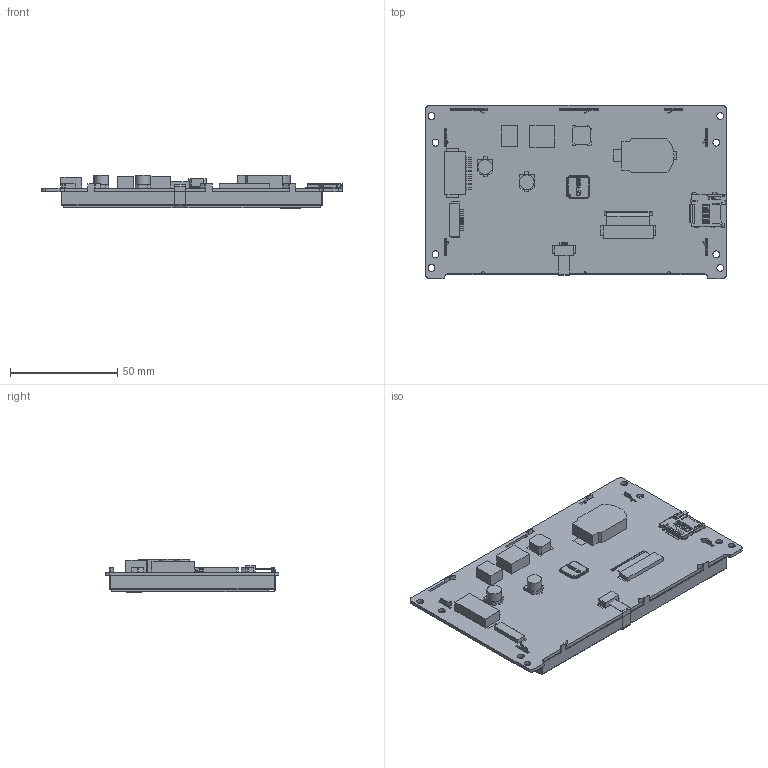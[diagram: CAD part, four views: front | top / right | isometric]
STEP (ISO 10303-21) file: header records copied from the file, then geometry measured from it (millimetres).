
FILE_DESCRIPTION(/* description */ (''),/* implementation_level */ '2;1');
FILE_NAME(/* name */ '',/* time_stamp */ '2021-08-24T10:30:31+08:00',/* author */ (''),/* organization */ (''),/* preprocessor_version */ 'ST-DEVELOPER v11',/* originating_system */ 'SIEMENS PLM Software NX 7.5',/* authorisation */ '');
FILE_SCHEMA (('AP203_CONFIGURATION_CONTROLLED_3D_DESIGN_OF_MECHANICAL_PARTS_AND_ASSEMBLIES_MIM_LF'));
Products named in the file (1): SDWb050T84T
Bounding box: 140 x 80.9 x 15.61 mm (x, y, z)
Volume: 33762 mm3; surface area: 58261.1 mm2
Topology: 22 solids, 22 shells, 2468 faces, 7171 edges, 4819 vertices
Faces by surface type: plane 2025, cylinder 435, bspline 7, cone 1
Full cylindrical faces by diameter (mm): 3.2 x8, 6.776 x2
Entity records: 83303 total; most frequent: CARTESIAN_POINT 14834, ORIENTED_EDGE 14126, DIRECTION 12896, EDGE_CURVE 7063, LINE 6214, VECTOR 6214, VERTEX_POINT 4638, AXIS2_PLACEMENT_3D 3341
